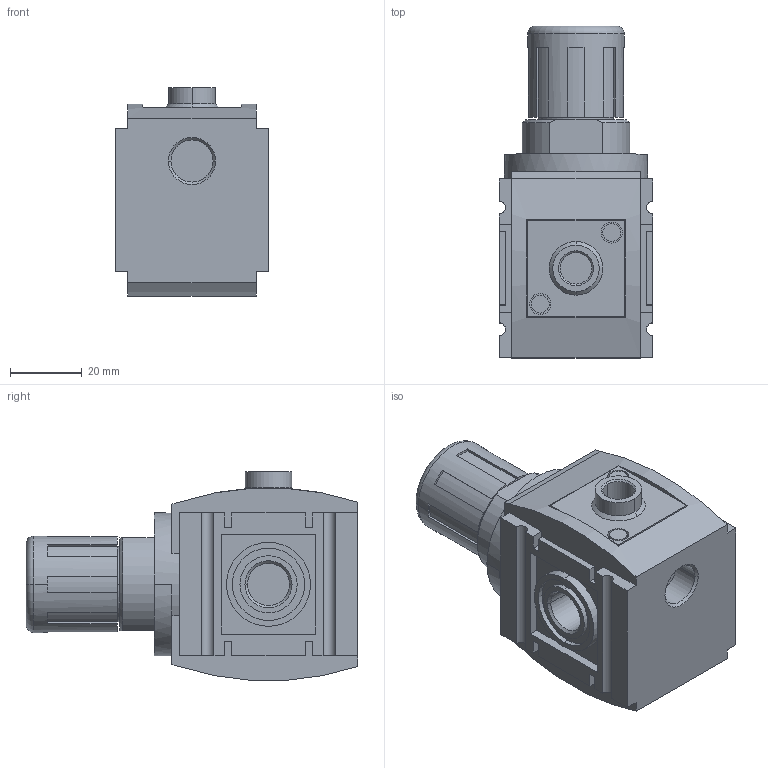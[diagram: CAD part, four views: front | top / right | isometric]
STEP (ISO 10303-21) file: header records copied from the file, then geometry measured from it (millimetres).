
FILE_DESCRIPTION((''),'2;1');
FILE_NAME('R412010559_ASM','2019-03-18T',('vol1hc'),(''),'CREO PARAMETRIC BY PTC INC, 2016260','CREO PARAMETRIC BY PTC INC, 2016260','');
FILE_SCHEMA(('CONFIG_CONTROL_DESIGN'));
Length unit declared in the file: millimetre
Products named in the file (2): R412010559; R412010559_ASM
Assembly tree (1 placements, depth 2):
  R412010559_ASM
    R412010559
Bounding box: 43 x 92.8 x 58.34 mm (x, y, z)
Volume: 129929.8 mm3; surface area: 23123.3 mm2
Topology: 1 solids, 1 shells, 178 faces, 460 edges, 304 vertices
Faces by surface type: plane 116, cylinder 48, cone 12, torus 2
Entity records: 5524 total; most frequent: CARTESIAN_POINT 961, DIRECTION 954, ORIENTED_EDGE 920, EDGE_CURVE 460, VECTOR 320, LINE 320, AXIS2_PLACEMENT_3D 317, VERTEX_POINT 304
